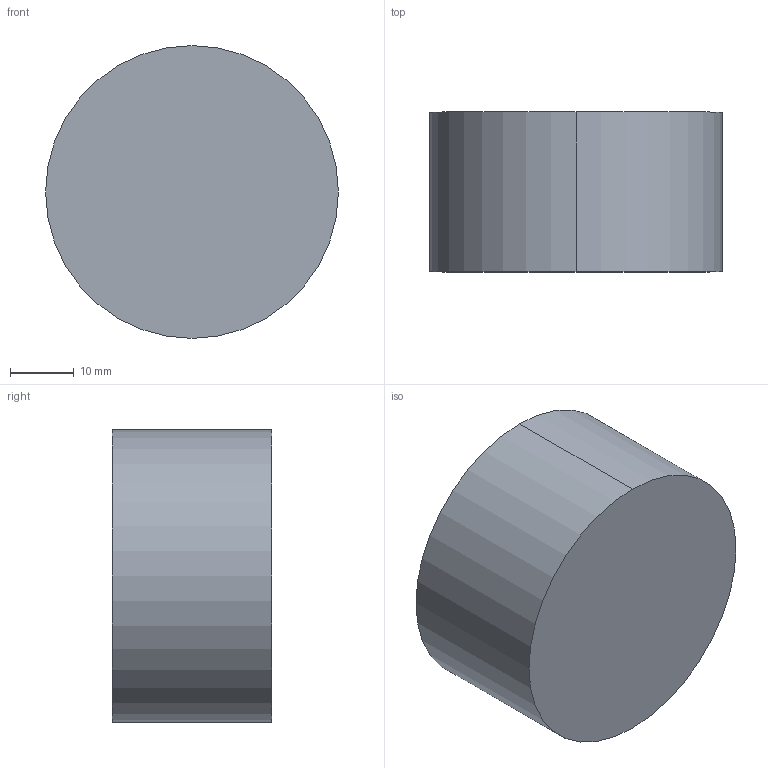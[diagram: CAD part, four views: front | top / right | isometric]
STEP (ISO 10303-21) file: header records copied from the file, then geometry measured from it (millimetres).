
FILE_DESCRIPTION (( 'STEP AP203' ), '1' );
FILE_NAME ('5846 Tamper V2 3Db.STEP', '2025-05-18T14:40:31', ( '' ), ( '' ), 'SwSTEP 2.0', 'SolidWorks 2023', '' );
FILE_SCHEMA (( 'CONFIG_CONTROL_DESIGN' ));
Length unit declared in the file: millimetre
Products named in the file (1): 5846 Tamper V2 3Db
Bounding box: 45.8 x 25 x 45.8 mm (x, y, z)
Volume: 40745.8 mm3; surface area: 7058.6 mm2
Topology: 1 solids, 1 shells, 7 faces, 12 edges, 8 vertices
Faces by surface type: cylinder 4, plane 3
Entity records: 251 total; most frequent: DIRECTION 36, CARTESIAN_POINT 28, ORIENTED_EDGE 24, AXIS2_PLACEMENT_3D 16, EDGE_CURVE 12, EDGE_LOOP 8, PERSON_AND_ORGANIZATION 8, VERTEX_POINT 8
